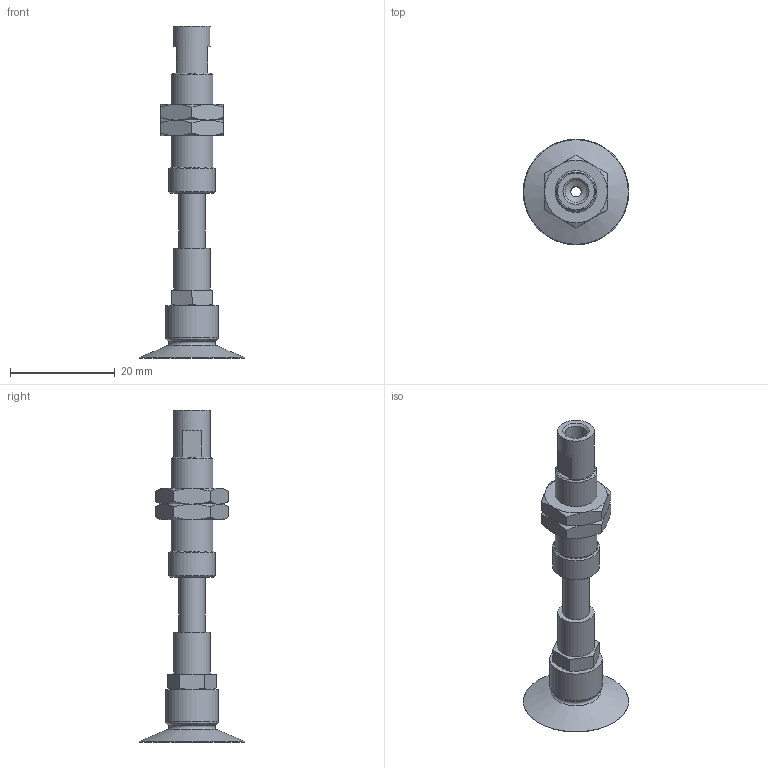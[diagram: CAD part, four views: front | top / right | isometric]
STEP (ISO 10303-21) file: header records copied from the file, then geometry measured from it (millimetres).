
FILE_DESCRIPTION(('STEP AP203'),'1');
FILE_NAME('-PE.stp','2025-04-01T05:30:25',(' '),(' '),'Spatial InterOp 3D',' ',' ');
FILE_SCHEMA(('CONFIG_CONTROL_DESIGN'));
Length unit declared in the file: millimetre
Products named in the file (8): BNABPATS-20A-10-※-PE; ZIG; BODY; NUT; TN-PS-10-M5; Setting screws-TN-PS-10-M5; BPAG-20A-※
Assembly tree (7 placements, depth 3):
  BNABPATS-20A-10-※-PE
    ZIG
    BODY
    NUT
    NUT
    TN-PS-10-M5
      Setting screws-TN-PS-10-M5
    BPAG-20A-※
Bounding box: 20.19 x 20.19 x 63.5 mm (x, y, z)
Volume: 3031.3 mm3; surface area: 4580.6 mm2
Topology: 6 solids, 6 shells, 173 faces, 339 edges, 208 vertices
Faces by surface type: plane 76, cone 47, cylinder 41, torus 9
Full cylindrical faces by diameter (mm): 0.9 x4, 1.1 x14, 2 x3, 3.9 x1, 4 x4, 4.2 x2, 5 x3, 5.2 x1, 6 x2, 7 x2, 7.25 x2, 8 x1, 9 x1, 10 x1
Entity records: 4458 total; most frequent: CARTESIAN_POINT 822, DIRECTION 708, ORIENTED_EDGE 520, AXIS2_PLACEMENT_3D 326, EDGE_LOOP 282, EDGE_CURVE 260, FACE_OUTER_BOUND 223, VERTEX_POINT 196
